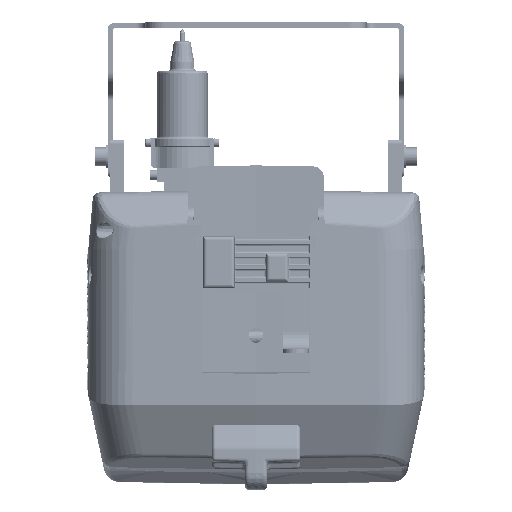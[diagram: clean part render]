
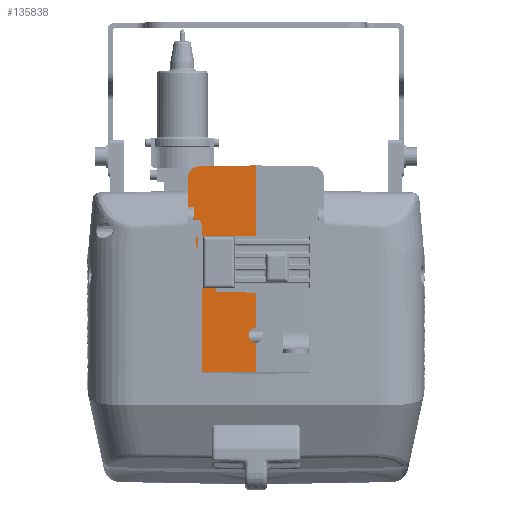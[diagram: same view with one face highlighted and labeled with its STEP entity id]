
A CAD part, front view. The second image highlights one B-rep face of the part: STEP entity #135838.
In plain terms, the highlighted planar face has unit normal (0.018, -1, 0).
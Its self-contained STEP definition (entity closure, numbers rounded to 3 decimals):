
#2805 = EDGE_CURVE ( 'NONE', #41748, #65304, #182734, .T. ) ;
#5070 = ORIENTED_EDGE ( 'NONE', *, *, #59277, .T. ) ;
#5734 = CARTESIAN_POINT ( 'NONE',  ( 0., -233.9, -42.95 ) ) ;
#8933 = EDGE_CURVE ( 'NONE', #29079, #177957, #147628, .T. ) ;
#9690 = CARTESIAN_POINT ( 'NONE',  ( 0., -233.9, -500000. ) ) ;
#10671 = EDGE_CURVE ( 'NONE', #20565, #133923, #186997, .T. ) ;
#11298 = EDGE_CURVE ( 'NONE', #29404, #23038, #67047, .T. ) ;
#13120 = VECTOR ( 'NONE', #46590, 1000. ) ;
#19332 = VECTOR ( 'NONE', #23401, 1000. ) ;
#19830 = CARTESIAN_POINT ( 'NONE',  ( 6108.58, -127.274, -52.559 ) ) ;
#20126 = LINE ( 'NONE', #182271, #45078 ) ;
#20565 = VERTEX_POINT ( 'NONE', #121893 ) ;
#21267 = VECTOR ( 'NONE', #80698, 1000. ) ;
#21503 = DIRECTION ( 'NONE',  ( 1., 0.017, 0.017 ) ) ;
#22143 = PLANE ( 'NONE',  #67118 ) ;
#22768 = ORIENTED_EDGE ( 'NONE', *, *, #77406, .T. ) ;
#23038 = VERTEX_POINT ( 'NONE', #81184 ) ;
#23077 = DIRECTION ( 'NONE',  ( -1., -0.017, 0. ) ) ;
#23401 = DIRECTION ( 'NONE',  ( 0., 0., -1. ) ) ;
#23595 = CARTESIAN_POINT ( 'NONE',  ( 0., -233.9, -23.9 ) ) ;
#23999 = VERTEX_POINT ( 'NONE', #47884 ) ;
#24319 = CARTESIAN_POINT ( 'NONE',  ( -21.75, -234.28, -500000. ) ) ;
#24923 = DIRECTION ( 'NONE',  ( 0.017, -1., 0. ) ) ;
#29079 = VERTEX_POINT ( 'NONE', #40300 ) ;
#29404 = VERTEX_POINT ( 'NONE', #66600 ) ;
#31201 = VECTOR ( 'NONE', #164820, 1000. ) ;
#36731 = DIRECTION ( 'NONE',  ( -1., -0.017, -0.017 ) ) ;
#37022 = ORIENTED_EDGE ( 'NONE', *, *, #127469, .T. ) ;
#38091 = CARTESIAN_POINT ( 'NONE',  ( -8.1, -234.041, -51.05 ) ) ;
#38666 = VERTEX_POINT ( 'NONE', #59957 ) ;
#39349 = DIRECTION ( 'NONE',  ( 0., 0., 1. ) ) ;
#40300 = CARTESIAN_POINT ( 'NONE',  ( -36.74, -234.541, 38.675 ) ) ;
#41748 = VERTEX_POINT ( 'NONE', #130926 ) ;
#43860 = CARTESIAN_POINT ( 'NONE',  ( -33.733, -234.489, -500000. ) ) ;
#45078 = VECTOR ( 'NONE', #164185, 1000. ) ;
#46590 = DIRECTION ( 'NONE',  ( 0., 0., -1. ) ) ;
#47884 = CARTESIAN_POINT ( 'NONE',  ( -30.787, -234.437, -66.657 ) ) ;
#48935 = CARTESIAN_POINT ( 'NONE',  ( 0., -233.9, 1.5 ) ) ;
#53862 = CARTESIAN_POINT ( 'NONE',  ( 8721.801, -81.66, -176.14 ) ) ;
#53874 = VECTOR ( 'NONE', #36731, 1000. ) ;
#54029 = ORIENTED_EDGE ( 'NONE', *, *, #150317, .T. ) ;
#55806 = CARTESIAN_POINT ( 'NONE',  ( 8276.214, -89.438, -204.257 ) ) ;
#59277 = EDGE_CURVE ( 'NONE', #38666, #177957, #81568, .T. ) ;
#59957 = CARTESIAN_POINT ( 'NONE',  ( 0., -233.9, 45.172 ) ) ;
#60021 = CARTESIAN_POINT ( 'NONE',  ( -36.74, -234.541, 38.675 ) ) ;
#60544 = VECTOR ( 'NONE', #39349, 1000. ) ;
#61602 = CARTESIAN_POINT ( 'NONE',  ( -8722.244, -386.147, -150.747 ) ) ;
#62028 = CARTESIAN_POINT ( 'NONE',  ( -30.787, -234.437, -66.657 ) ) ;
#65304 = VERTEX_POINT ( 'NONE', #73042 ) ;
#66371 = EDGE_CURVE ( 'NONE', #69461, #23038, #98892, .T. ) ;
#66600 = CARTESIAN_POINT ( 'NONE',  ( 0., -233.9, -67.167 ) ) ;
#67047 = LINE ( 'NONE', #67994, #60544 ) ;
#67118 = AXIS2_PLACEMENT_3D ( 'NONE', #9690, #24923, #23077 ) ;
#67994 = CARTESIAN_POINT ( 'NONE',  ( 0., -233.9, -500000. ) ) ;
#69461 = VERTEX_POINT ( 'NONE', #123859 ) ;
#69971 = VECTOR ( 'NONE', #70974, 1000. ) ;
#70974 = DIRECTION ( 'NONE',  ( 0., 0., 1. ) ) ;
#73042 = CARTESIAN_POINT ( 'NONE',  ( -21.75, -234.28, -23.52 ) ) ;
#75372 = EDGE_CURVE ( 'NONE', #123104, #38666, #20126, .T. ) ;
#77406 = EDGE_CURVE ( 'NONE', #69461, #143825, #102420, .T. ) ;
#77952 = CARTESIAN_POINT ( 'NONE',  ( -36.74, -234.541, 22.55 ) ) ;
#79253 = ORIENTED_EDGE ( 'NONE', *, *, #2805, .F. ) ;
#80698 = DIRECTION ( 'NONE',  ( 1., 0.017, -0.017 ) ) ;
#81184 = CARTESIAN_POINT ( 'NONE',  ( 0., -233.9, -51.05 ) ) ;
#81568 = LINE ( 'NONE', #122589, #53874 ) ;
#81858 = ORIENTED_EDGE ( 'NONE', *, *, #174350, .T. ) ;
#81982 = CARTESIAN_POINT ( 'NONE',  ( -8.1, -234.041, -42.95 ) ) ;
#87178 = CARTESIAN_POINT ( 'NONE',  ( 0., -233.9, -500000. ) ) ;
#88664 = CARTESIAN_POINT ( 'NONE',  ( -30.847, -234.438, 44.661 ) ) ;
#92949 = CARTESIAN_POINT ( 'NONE',  ( -30.847, -234.438, 44.661 ) ) ;
#94210 = ORIENTED_EDGE ( 'NONE', *, *, #10671, .T. ) ;
#96250 = ORIENTED_EDGE ( 'NONE', *, *, #8933, .F. ) ;
#96598 = EDGE_CURVE ( 'NONE', #143825, #65304, #182708, .T. ) ;
#98892 =( BOUNDED_CURVE ( )  B_SPLINE_CURVE ( 3, ( #5734, #81982, #38091, #125803 ),
 .UNSPECIFIED., .F., .F. ) 
 B_SPLINE_CURVE_WITH_KNOTS ( ( 4, 4 ),
 ( 4.712, 7.854 ),
 .UNSPECIFIED. ) 
 CURVE ( )  GEOMETRIC_REPRESENTATION_ITEM ( )  RATIONAL_B_SPLINE_CURVE ( ( 1., 0.333, 0.333, 1. ) ) 
 REPRESENTATION_ITEM ( '' )  );
#102029 = CARTESIAN_POINT ( 'NONE',  ( -36.74, -234.541, 42.139 ) ) ;
#102420 = LINE ( 'NONE', #87178, #69971 ) ;
#107544 = ORIENTED_EDGE ( 'NONE', *, *, #138669, .F. ) ;
#108336 = ORIENTED_EDGE ( 'NONE', *, *, #11298, .T. ) ;
#118150 = CARTESIAN_POINT ( 'NONE',  ( -34.313, -234.499, 44.604 ) ) ;
#120175 = CARTESIAN_POINT ( 'NONE',  ( -32.52, -234.468, -66.629 ) ) ;
#121893 = CARTESIAN_POINT ( 'NONE',  ( -33.733, -234.489, 22.513 ) ) ;
#122589 = CARTESIAN_POINT ( 'NONE',  ( -0.262, -233.905, 45.168 ) ) ;
#123104 = VERTEX_POINT ( 'NONE', #48935 ) ;
#123859 = CARTESIAN_POINT ( 'NONE',  ( 0., -233.9, -42.95 ) ) ;
#125803 = CARTESIAN_POINT ( 'NONE',  ( 0., -233.9, -51.05 ) ) ;
#126689 = EDGE_CURVE ( 'NONE', #20565, #180124, #132402, .T. ) ;
#127369 = CARTESIAN_POINT ( 'NONE',  ( -33.733, -234.489, -63.665 ) ) ;
#127469 = EDGE_CURVE ( 'NONE', #29079, #180124, #177310, .T. ) ;
#128273 = LINE ( 'NONE', #55806, #21267 ) ;
#130926 = CARTESIAN_POINT ( 'NONE',  ( -21.75, -234.28, 1.12 ) ) ;
#132402 = LINE ( 'NONE', #19830, #31201 ) ;
#133923 = VERTEX_POINT ( 'NONE', #127369 ) ;
#135838 = ADVANCED_FACE ( 'NONE', ( #186143 ), #22143, .T. ) ;
#135843 = VECTOR ( 'NONE', #21503, 1000. ) ;
#136680 = EDGE_LOOP ( 'NONE', ( #22768, #143333, #79253, #54029, #145755, #5070, #96250, #37022, #141522, #94210, #107544, #81858, #108336, #138224 ) ) ;
#138224 = ORIENTED_EDGE ( 'NONE', *, *, #66371, .F. ) ;
#138669 = EDGE_CURVE ( 'NONE', #23999, #133923, #164980, .T. ) ;
#140655 = DIRECTION ( 'NONE',  ( -1., -0.017, 0.017 ) ) ;
#141522 = ORIENTED_EDGE ( 'NONE', *, *, #126689, .F. ) ;
#143333 = ORIENTED_EDGE ( 'NONE', *, *, #96598, .T. ) ;
#143825 = VERTEX_POINT ( 'NONE', #23595 ) ;
#145755 = ORIENTED_EDGE ( 'NONE', *, *, #75372, .T. ) ;
#147628 =( BOUNDED_CURVE ( )  B_SPLINE_CURVE ( 3, ( #60021, #102029, #118150, #88664 ),
 .UNSPECIFIED., .F., .F. ) 
 B_SPLINE_CURVE_WITH_KNOTS ( ( 4, 4 ),
 ( 5.65, 7.2 ),
 .UNSPECIFIED. ) 
 CURVE ( )  GEOMETRIC_REPRESENTATION_ITEM ( )  RATIONAL_B_SPLINE_CURVE ( ( 1., 0.809, 0.809, 1. ) ) 
 REPRESENTATION_ITEM ( '' )  );
#148423 = LINE ( 'NONE', #61602, #135843 ) ;
#150317 = EDGE_CURVE ( 'NONE', #41748, #123104, #148423, .T. ) ;
#150523 = CARTESIAN_POINT ( 'NONE',  ( -36.74, -234.541, -128. ) ) ;
#151170 = VECTOR ( 'NONE', #140655, 1000. ) ;
#160240 = DIRECTION ( 'NONE',  ( 0., 0., -1. ) ) ;
#164185 = DIRECTION ( 'NONE',  ( 0., 0., 1. ) ) ;
#164820 = DIRECTION ( 'NONE',  ( -1., -0.017, 0.012 ) ) ;
#164980 =( BOUNDED_CURVE ( )  B_SPLINE_CURVE ( 3, ( #62028, #120175, #178448, #171627 ),
 .UNSPECIFIED., .F., .T. ) 
 B_SPLINE_CURVE_WITH_KNOTS ( ( 4, 4 ),
 ( 2.224, 3.775 ),
 .UNSPECIFIED. ) 
 CURVE ( )  GEOMETRIC_REPRESENTATION_ITEM ( )  RATIONAL_B_SPLINE_CURVE ( ( 1., 0.809, 0.809, 1. ) ) 
 REPRESENTATION_ITEM ( '' )  );
#171627 = CARTESIAN_POINT ( 'NONE',  ( -33.733, -234.489, -63.665 ) ) ;
#173196 = VECTOR ( 'NONE', #160240, 1000. ) ;
#174350 = EDGE_CURVE ( 'NONE', #23999, #29404, #128273, .T. ) ;
#177310 = LINE ( 'NONE', #150523, #13120 ) ;
#177957 = VERTEX_POINT ( 'NONE', #92949 ) ;
#178448 = CARTESIAN_POINT ( 'NONE',  ( -33.733, -234.489, -65.396 ) ) ;
#180124 = VERTEX_POINT ( 'NONE', #77952 ) ;
#182271 = CARTESIAN_POINT ( 'NONE',  ( 0., -233.9, -500000. ) ) ;
#182708 = LINE ( 'NONE', #53862, #151170 ) ;
#182734 = LINE ( 'NONE', #24319, #19332 ) ;
#186143 = FACE_OUTER_BOUND ( 'NONE', #136680, .T. ) ;
#186997 = LINE ( 'NONE', #43860, #173196 ) ;
